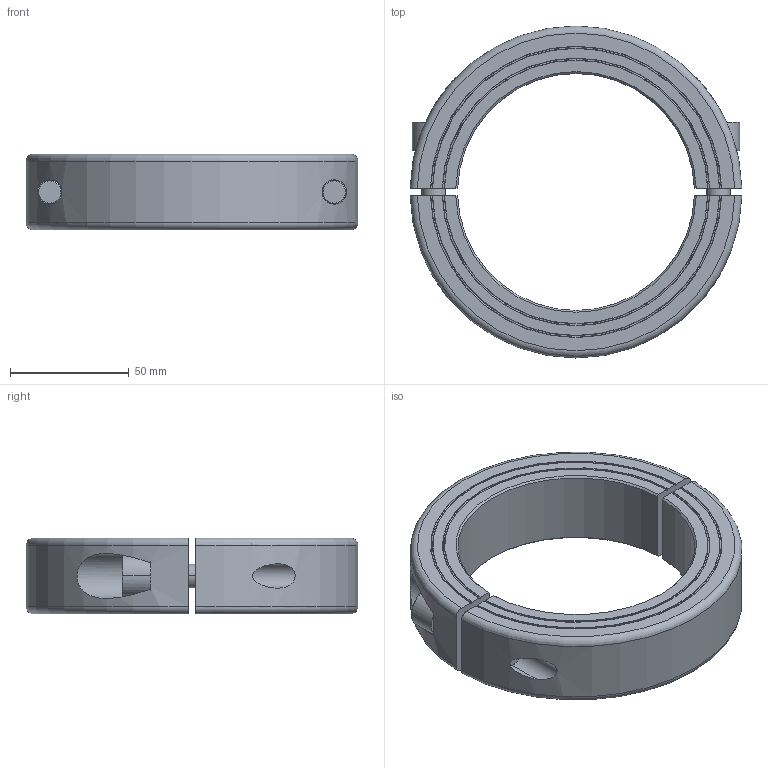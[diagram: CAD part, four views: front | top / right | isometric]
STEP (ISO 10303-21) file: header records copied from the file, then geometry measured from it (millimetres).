
FILE_DESCRIPTION((''),'2;1');
FILE_NAME('MSPH-100-F','2016-09-09T',('SYSTEM'),(''),'PRO/ENGINEER BY PARAMETRIC TECHNOLOGY CORPORATION, 2015110','PRO/ENGINEER BY PARAMETRIC TECHNOLOGY CORPORATION, 2015110','');
FILE_SCHEMA(('AUTOMOTIVE_DESIGN { 1 0 10303 214 1 1 1 1 }'));
Length unit declared in the file: millimetre
Products named in the file (1): MSPH-100-F
Bounding box: 139.96 x 140 x 32 mm (x, y, z)
Volume: 226876.2 mm3; surface area: 48556 mm2
Topology: 2 solids, 2 shells, 90 faces, 222 edges, 144 vertices
Faces by surface type: plane 36, cylinder 26, cone 20, torus 8
Entity records: 3555 total; most frequent: CARTESIAN_POINT 750, ORIENTED_EDGE 444, DIRECTION 430, EDGE_CURVE 222, AXIS2_PLACEMENT_3D 168, VERTEX_POINT 144, EDGE_LOOP 102, VECTOR 94
